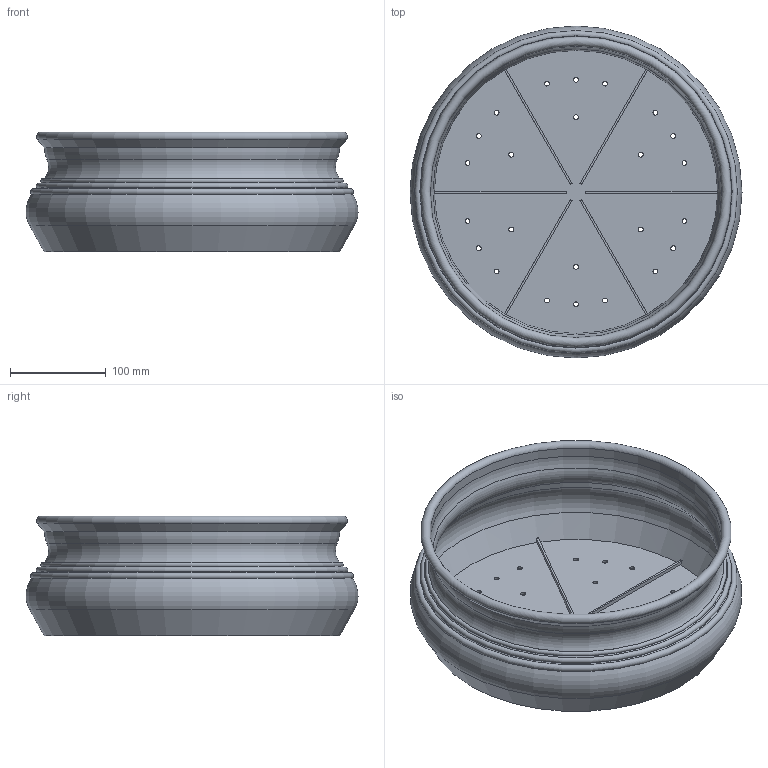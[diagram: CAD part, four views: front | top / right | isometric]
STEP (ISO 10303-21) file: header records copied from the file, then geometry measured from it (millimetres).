
FILE_DESCRIPTION(/* description */ (''),/* implementation_level */ '2;1');
FILE_NAME(/* name */ 'LR2406-S20-H125-D350_step.step',/* time_stamp */ '2024-02-01T11:01:41+01:00',/* author */ (''),/* organization */ (''),/* preprocessor_version */ 'ST-DEVELOPER v20',/* originating_system */ 'Autodesk Translation Framework v12.20.1.177',/* authorisation */ '');
FILE_SCHEMA (('AUTOMOTIVE_DESIGN { 1 0 10303 214 3 1 1 }'));
Length unit declared in the file: millimetre
Products named in the file (1): LR2406-S20-H125-D350
Bounding box: 345.99 x 345.99 x 125 mm (x, y, z)
Volume: 548024.8 mm3; surface area: 444321.3 mm2
Topology: 1 solids, 1 shells, 68 faces, 181 edges, 115 vertices
Faces by surface type: cylinder 31, plane 20, torus 10, cone 7
Full cylindrical faces by diameter (mm): 5 x24, 304 x1
Entity records: 2286 total; most frequent: DIRECTION 420, CARTESIAN_POINT 365, ORIENTED_EDGE 362, EDGE_CURVE 181, AXIS2_PLACEMENT_3D 170, EDGE_LOOP 116, VERTEX_POINT 115, CIRCLE 101
